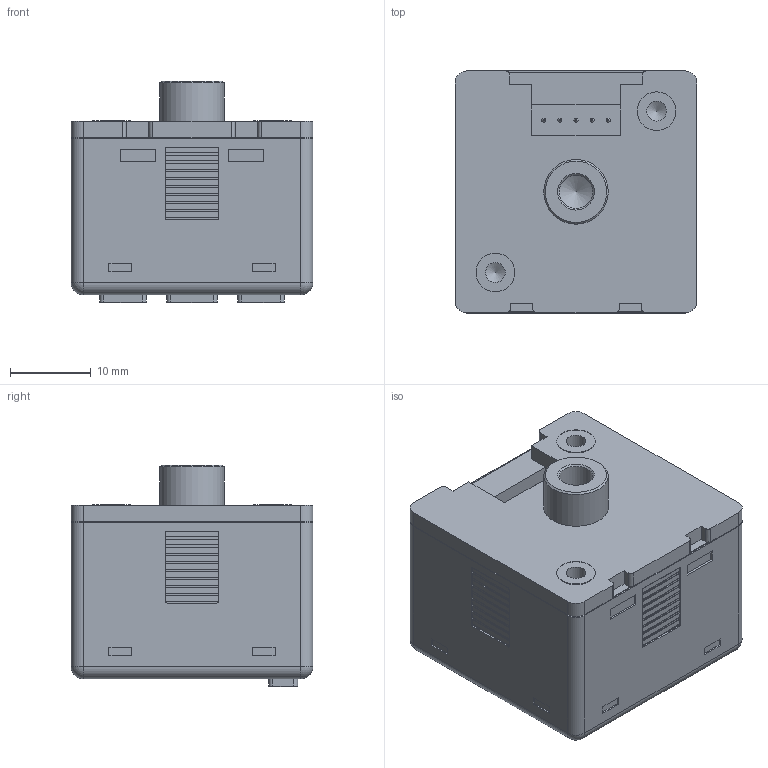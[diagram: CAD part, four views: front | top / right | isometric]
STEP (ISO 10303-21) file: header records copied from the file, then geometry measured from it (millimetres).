
FILE_DESCRIPTION(/* description */ (''),/* implementation_level */ '2;1');
FILE_NAME(/* name */ 'D:\fengjiarun\01)HUAYIFENG_宣传文件\01)HUAYIFENG_\X2\5BA34F2065874EF6\X0\_产品资料整合\03)产品3D文档\06)产品3D_特殊传感器_K12_2019\06-04)双数显数字压力传感器\DNP-E.stp',/* time_stamp */ '2021-04-30T09:28:19+08:00',/* author */ ('HYF-ID009'),/* organization */ (''),/* preprocessor_version */ 'ST-DEVELOPER v16.5',/* originating_system */ 'Autodesk Inventor 2017',/* authorisation */ '');
FILE_SCHEMA (('AUTOMOTIVE_DESIGN { 1 0 10303 214 3 1 1 }'));
Length unit declared in the file: millimetre
Products named in the file (1): DNP-E
Bounding box: 30 x 30 x 27.5 mm (x, y, z)
Volume: 18843 mm3; surface area: 5018.1 mm2
Topology: 1 solids, 1 shells, 403 faces, 1061 edges, 692 vertices
Faces by surface type: plane 294, cylinder 69, bspline 19, torus 12, cone 5, sphere 4
Full cylindrical faces by diameter (mm): 0.5 x5, 2.459 x2, 4.134 x1, 4.8 x2, 8 x1
Entity records: 12459 total; most frequent: CARTESIAN_POINT 2529, ORIENTED_EDGE 2084, DIRECTION 1952, EDGE_CURVE 1042, LINE 836, VECTOR 836, VERTEX_POINT 689, AXIS2_PLACEMENT_3D 558
